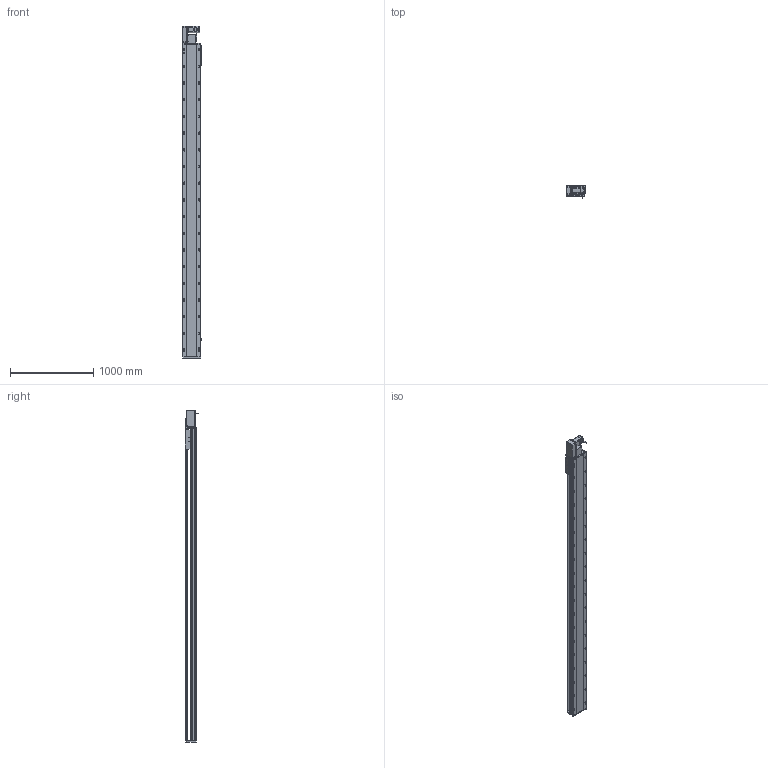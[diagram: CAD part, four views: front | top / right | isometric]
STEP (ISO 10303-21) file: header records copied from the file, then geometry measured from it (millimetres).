
FILE_DESCRIPTION (( 'STEP AP214' ), '1' );
FILE_NAME ('RTB22S-XX-3400-L-M75-C4.STEP', '2025-12-12T03:34:56', ( '' ), ( '' ), 'SwSTEP 2.0', 'SolidWorks 2018', '' );
FILE_SCHEMA (( 'AUTOMOTIVE_DESIGN' ));
Length unit declared in the file: millimetre
Products named in the file (14): RTB22S-GY-017P^RTB22S-L-々湍釱蚾饜_RTB22S-XX-XX-L-M75-C4; RTB22S-GY-005P^RTB22S-L-々湍釱蚾饜_RTB22S-XX-XX-L-M75-C4; RTB22S-GY-001耜裔^RTB22S-XX-XX-L-M75-C4; RTH22-GY-013外置感应片^RTB22S-XX-XX-L-M75-C4; RTB22S-L-004賑釱^RTB22S-XX-XX-L-M75-C4; RTB22S-GY-007奻裔^RTB22S-XX-XX-L-M75-C4; OMRON EE-SX672 传感器^RTB22S-XX-XX-L-M75-C4; RTB22S-GY-014--々湍釱^RTB22S-L-々湍釱蚾饜_RTB22S-XX-XX-L-M75-C4; RTB22S-L-々湍釱蚾饜^RTB22S-XX-XX-L-M75-C4; RTB22S-XX-3400-L-M75-C4; 750W萇儂^RTB22S-XX-XX-L-M75-C4; RTB22S-GY-008-M75--萇儂啣^RTB22S-L-々湍釱蚾饜_RTB22S-XX-XX-L-M75-C4; RTB22S-GY-018P^RTB22S-L-々湍釱蚾饜_RTB22S-XX-XX-L-M75-C4; RTB22S-L-011菁釱^RTB22S-XX-XX-L-M75-C4
Assembly tree (16 placements, depth 3):
  RTB22S-XX-3400-L-M75-C4
    RTB22S-L-011菁釱^RTB22S-XX-XX-L-M75-C4
    750W萇儂^RTB22S-XX-XX-L-M75-C4
    RTB22S-L-004賑釱^RTB22S-XX-XX-L-M75-C4
    OMRON EE-SX672 传感器^RTB22S-XX-XX-L-M75-C4  x3
    RTH22-GY-013外置感应片^RTB22S-XX-XX-L-M75-C4
    RTB22S-GY-007奻裔^RTB22S-XX-XX-L-M75-C4
    RTB22S-GY-001耜裔^RTB22S-XX-XX-L-M75-C4
    RTB22S-L-々湍釱蚾饜^RTB22S-XX-XX-L-M75-C4
      RTB22S-GY-014--々湍釱^RTB22S-L-々湍釱蚾饜_RTB22S-XX-XX-L-M75-C4
      RTB22S-GY-017P^RTB22S-L-々湍釱蚾饜_RTB22S-XX-XX-L-M75-C4  x2
      RTB22S-GY-005P^RTB22S-L-々湍釱蚾饜_RTB22S-XX-XX-L-M75-C4
      RTB22S-GY-008-M75--萇儂啣^RTB22S-L-々湍釱蚾饜_RTB22S-XX-XX-L-M75-C4
      RTB22S-GY-018P^RTB22S-L-々湍釱蚾饜_RTB22S-XX-XX-L-M75-C4
Bounding box: 238.5 x 162.7 x 3979 mm (x, y, z)
Volume: 49252686.6 mm3; surface area: 5011232.5 mm2
Topology: 15 solids, 15 shells, 2181 faces, 5936 edges, 3782 vertices
Faces by surface type: plane 937, cylinder 754, bspline 296, cone 182, sphere 8, torus 4
Entity records: 60006 total; most frequent: CARTESIAN_POINT 16800, ORIENTED_EDGE 8572, DIRECTION 8440, EDGE_CURVE 4286, AXIS2_PLACEMENT_3D 3050, VERTEX_POINT 2786, VECTOR 2340, LINE 2340
